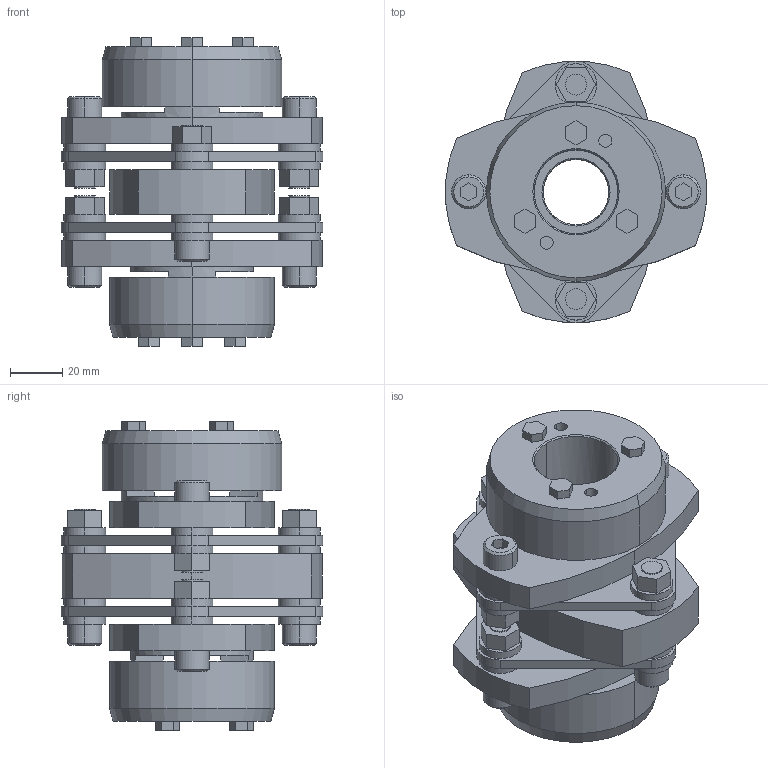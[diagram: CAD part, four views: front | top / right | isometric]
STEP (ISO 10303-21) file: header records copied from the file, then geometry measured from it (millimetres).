
FILE_DESCRIPTION((''),'2;1');
FILE_NAME('LCD-100T7-25×32.stp','2011-09-09T08:45:20',(''),(''),'AutoCAD STEP 2000i','AutoCAD 2000i',', , ');
FILE_SCHEMA(('CONFIG_CONTROL_DESIGN'));
Length unit declared in the file: millimetre
Products named in the file (8): LCD-100T7-25×30; 忣兜1; LC100T7-T030; LC100T7-T025-1; LC100T7-T025; LC100T7-T022-1; LC100T7-T022; LCD100-ITA
Assembly tree (7 placements, depth 2):
  LCD-100T7-25×30
    忣兜1
    LC100T7-T030
    LC100T7-T025-1
    LC100T7-T025
    LC100T7-T022-1
    LC100T7-T022
    LCD100-ITA
Bounding box: 100 x 99.93 x 118 mm (x, y, z)
Volume: 351048.8 mm3; surface area: 90051.8 mm2
Topology: 1 solids, 1 shells, 320 faces, 780 edges, 512 vertices
Faces by surface type: plane 176, cylinder 120, cone 24
Entity records: 9677 total; most frequent: DIRECTION 1716, CARTESIAN_POINT 1620, ORIENTED_EDGE 1560, EDGE_CURVE 780, AXIS2_PLACEMENT_3D 608, VERTEX_POINT 512, VECTOR 500, LINE 500
